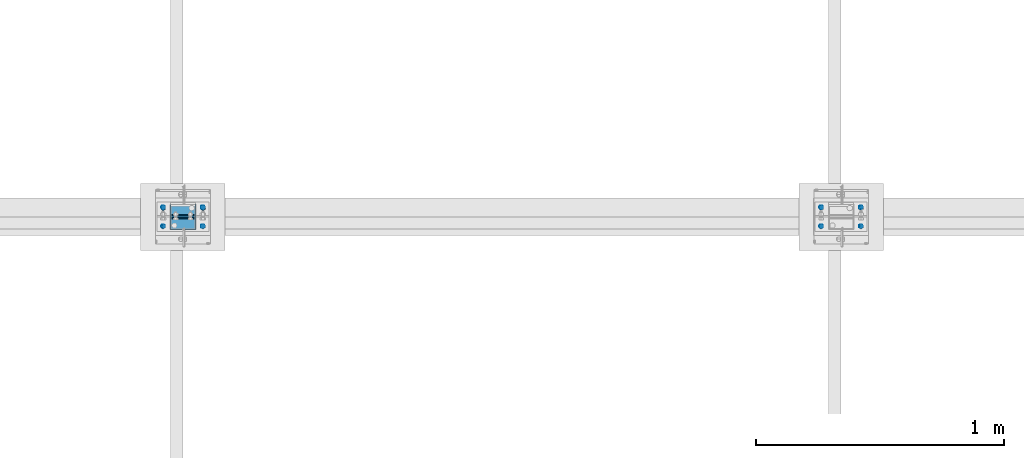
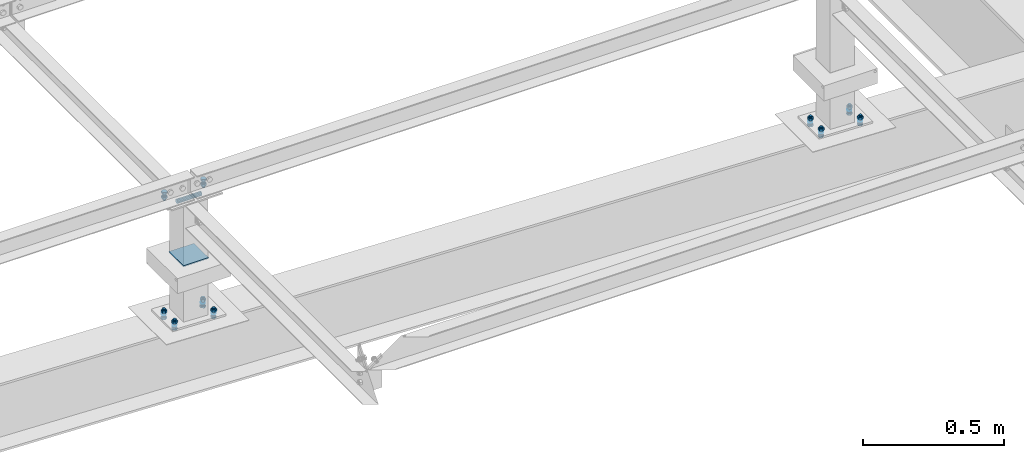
# One storey, part 77 of 3134: 7 mechanical fasteners, 5 elements without a shape of their own.
"""IFC2X3 building model written with IfcOpenShell, lengths in millimetres."""

from ifc_helpers import new_model, si_unit, frame, origin_with_axes, place, context, subcontext, project, spatial, faceted_brep, source, transform, mapped, material, type_object, element, aggregate, save


model = new_model("IFC2X3")

# Units and contexts
model_context = context("Model", 3, precision=1e-05, world=origin_with_axes())
body_context = subcontext(model_context, "Body", "Model", "MODEL_VIEW")
ifc_project = project(units=[si_unit("LENGTHUNIT", "METRE", prefix="MILLI"), si_unit("AREAUNIT", "SQUARE_METRE"), si_unit("VOLUMEUNIT", "CUBIC_METRE"), si_unit("MASSUNIT", "GRAM", prefix="KILO"), si_unit("TIMEUNIT", "SECOND"), si_unit("PLANEANGLEUNIT", "RADIAN"), si_unit("SOLIDANGLEUNIT", "STERADIAN"), si_unit("THERMODYNAMICTEMPERATUREUNIT", "DEGREE_CELSIUS"), si_unit("LUMINOUSINTENSITYUNIT", "LUMEN")], contexts=[model_context])

# Site, building, storey
site_placement = place(None, origin_with_axes())
site = spatial("IfcSite", under=ifc_project, at=site_placement, CompositionType="ELEMENT")
building_placement = place(site_placement, origin_with_axes())
building = spatial("IfcBuilding", under=site, at=building_placement, Name="Undefined", CompositionType="ELEMENT")
storey_placement = place(building_placement, origin_with_axes())
storey = spatial("IfcBuildingStorey", under=building, at=storey_placement, Name="Undefined", CompositionType="ELEMENT", Elevation=0.0)

# Assembly, mechanical fastener
assembly_1_placement = place(storey_placement, origin_with_axes())
assembly_1 = element("IfcElementAssembly", 1, at=assembly_1_placement, inside=storey, AssemblyPlace="NOTDEFINED", PredefinedType="RIGID_FRAME")
ifc_material_1 = material(Name="8.8")
mechanical_fastener_type = type_object("IfcMechanicalFastenerType", Name="Bolt assembly")
shared_shape_1 = source(origin_with_axes(), body_context, "Body", "Brep", [
    faceted_brep([(10.9696551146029, -14.0, 0.0), (5.48482755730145, -14.0, 9.5), (-5.48482755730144, -14.0, 9.5), (-10.9696551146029, -14.0, 1.34339530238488e-15), (-5.48482755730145, -14.0, -9.5), (5.48482755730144, -14.0, -9.50000000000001), (5.48482755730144, -6.0, -9.50000000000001), (-5.48482755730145, -6.0, -9.5), (-10.9696551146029, -6.0, 1.34339530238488e-15), (-5.48482755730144, -6.0, 9.5), (5.48482755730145, -6.0, 9.5), (10.9696551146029, -6.0, 0.0), (6.0, -6.0, 0.0), (5.19615242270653, -6.0, 3.00000000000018), (2.99999999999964, -6.0, 5.19615242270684), (-6.21801588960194e-13, -6.0, 6.0), (-3.00000000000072, -6.0, 5.19615242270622), (-5.19615242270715, -6.0, 2.9999999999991), (-6.0, -6.0, -1.24360317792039e-12), (-5.19615242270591, -6.0, -3.00000000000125), (-2.99999999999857, -6.0, -5.19615242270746), (1.85874342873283e-12, -6.0, -6.0), (3.00000000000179, -6.0, -5.1961524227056), (5.19615242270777, -6.0, -2.99999999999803), (5.19615242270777, 24.0, -2.99999999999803), (3.00000000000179, 24.0, -5.1961524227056), (1.85874342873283e-12, 24.0, -6.0), (-2.99999999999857, 24.0, -5.19615242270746), (-5.19615242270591, 24.0, -3.00000000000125), (-6.0, 24.0, -1.24360317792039e-12), (-5.19615242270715, 24.0, 2.9999999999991), (-3.00000000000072, 24.0, 5.19615242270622), (-6.21801588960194e-13, 24.0, 6.0), (2.99999999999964, 24.0, 5.19615242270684), (5.19615242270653, 24.0, 3.00000000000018), (6.0, 24.0, 0.0), (10.9696551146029, 6.00000000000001, 0.0), (5.48482755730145, 6.00000000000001, 9.5), (-5.48482755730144, 6.00000000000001, 9.5), (-10.9696551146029, 6.00000000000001, 1.34339530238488e-15), (-5.48482755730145, 6.00000000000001, -9.5), (5.48482755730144, 6.00000000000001, -9.50000000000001), (5.48482755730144, 16.0, -9.50000000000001), (-5.48482755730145, 16.0, -9.5), (-10.9696551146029, 16.0, 1.34339530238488e-15), (-5.48482755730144, 16.0, 9.5), (5.48482755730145, 16.0, 9.5), (10.9696551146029, 16.0, 0.0)], [[[0, 1, 2, 3, 4, 5]], [[6, 7, 8, 9, 10, 11]], [[0, 11, 10, 1]], [[1, 10, 9, 2]], [[2, 9, 8, 3]], [[3, 8, 7, 4]], [[4, 7, 6, 5]], [[5, 6, 11, 0]], [[12, 13, 14, 15, 16, 17, 18, 19, 20, 21, 22, 23]], [[24, 25, 26, 27, 28, 29, 30, 31, 32, 33, 34, 35]], [[12, 35, 34, 13]], [[13, 34, 33, 14]], [[14, 33, 32, 15]], [[15, 32, 31, 16]], [[16, 31, 30, 17]], [[17, 30, 29, 18]], [[18, 29, 28, 19]], [[19, 28, 27, 20]], [[20, 27, 26, 21]], [[21, 26, 25, 22]], [[22, 25, 24, 23]], [[23, 24, 35, 12]], [[36, 37, 38, 39, 40, 41]], [[42, 43, 44, 45, 46, 47]], [[36, 47, 46, 37]], [[37, 46, 45, 38]], [[38, 45, 44, 39]], [[39, 44, 43, 40]], [[40, 43, 42, 41]], [[41, 42, 47, 36]]]),
    faceted_brep([(7.0, -0.1, 0.0), (6.06217782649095, -0.1, 3.50000000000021), (3.49999999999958, -0.1, 6.06217782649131), (-7.25435187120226e-13, -0.1, 7.0), (-3.50000000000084, -0.1, 6.06217782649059), (-6.06217782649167, -0.1, 3.49999999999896), (-7.0, -0.1, -1.45087037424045e-12), (-6.06217782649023, -0.1, -3.50000000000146), (-3.49999999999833, -0.1, -6.06217782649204), (2.1685340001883e-12, -0.1, -7.0), (3.50000000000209, -0.1, -6.06217782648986), (6.0621778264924, -0.1, -3.4999999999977), (6.0621778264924, 6.00000000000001, -3.4999999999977), (3.50000000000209, 6.00000000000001, -6.06217782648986), (2.1685340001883e-12, 6.00000000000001, -7.0), (-3.49999999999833, 6.00000000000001, -6.06217782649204), (-6.06217782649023, 6.00000000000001, -3.50000000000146), (-7.0, 6.00000000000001, -1.45087037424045e-12), (-6.06217782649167, 6.00000000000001, 3.49999999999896), (-3.50000000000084, 6.00000000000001, 6.06217782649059), (-7.25435187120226e-13, 6.00000000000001, 7.0), (3.49999999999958, 6.00000000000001, 6.06217782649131), (6.06217782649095, 6.00000000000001, 3.50000000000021), (7.0, 6.00000000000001, 0.0), (7.0, -5.9, 0.0), (6.06217782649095, -5.9, 3.50000000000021), (3.49999999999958, -5.9, 6.06217782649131), (-7.25435187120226e-13, -5.9, 7.0), (-3.50000000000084, -5.9, 6.06217782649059), (-6.06217782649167, -5.9, 3.49999999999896), (-7.0, -5.9, -1.45087037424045e-12), (-6.06217782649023, -5.9, -3.50000000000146), (-3.49999999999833, -5.9, -6.06217782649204), (2.1685340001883e-12, -5.9, -7.0), (3.50000000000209, -5.9, -6.06217782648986), (6.0621778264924, -5.9, -3.4999999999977), (6.0621778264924, 0.0999999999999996, -3.4999999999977), (3.50000000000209, 0.0999999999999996, -6.06217782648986), (2.1685340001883e-12, 0.0999999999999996, -7.0), (-3.49999999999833, 0.0999999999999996, -6.06217782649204), (-6.06217782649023, 0.0999999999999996, -3.50000000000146), (-7.0, 0.0999999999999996, -1.45087037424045e-12), (-6.06217782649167, 0.0999999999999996, 3.49999999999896), (-3.50000000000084, 0.0999999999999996, 6.06217782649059), (-7.25435187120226e-13, 0.0999999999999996, 7.0), (3.49999999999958, 0.0999999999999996, 6.06217782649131), (6.06217782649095, 0.0999999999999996, 3.50000000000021), (7.0, 0.0999999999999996, 0.0)], [[[0, 1, 2, 3, 4, 5, 6, 7, 8, 9, 10, 11]], [[12, 13, 14, 15, 16, 17, 18, 19, 20, 21, 22, 23]], [[0, 23, 22, 1]], [[1, 22, 21, 2]], [[2, 21, 20, 3]], [[3, 20, 19, 4]], [[4, 19, 18, 5]], [[5, 18, 17, 6]], [[6, 17, 16, 7]], [[7, 16, 15, 8]], [[8, 15, 14, 9]], [[9, 14, 13, 10]], [[10, 13, 12, 11]], [[11, 12, 23, 0]], [[24, 25, 26, 27, 28, 29, 30, 31, 32, 33, 34, 35]], [[36, 37, 38, 39, 40, 41, 42, 43, 44, 45, 46, 47]], [[24, 47, 46, 25]], [[25, 46, 45, 26]], [[26, 45, 44, 27]], [[27, 44, 43, 28]], [[28, 43, 42, 29]], [[29, 42, 41, 30]], [[30, 41, 40, 31]], [[31, 40, 39, 32]], [[32, 39, 38, 33]], [[33, 38, 37, 34]], [[34, 37, 36, 35]], [[35, 36, 47, 24]]]),
])
mechanical_fastener_1_placement = place(assembly_1_placement, frame((5691.67, 22016.25, 4365.0), z_axis=(1.0, 0.0, 0.0), x_axis=(0.0, -1.0, 0.0)))
mechanical_fastener_1 = element("IfcMechanicalFastener", 2, at=mechanical_fastener_1_placement, type_object=mechanical_fastener_type, material=ifc_material_1, Name="Bolt assembly", NominalDiameter=12.0, NominalLength=30.0, context=body_context, shape_type="MappedRepresentation", body=[
    mapped(shared_shape_1, transform((0.0, -5.32963895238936e-10, -79.9999999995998))),
    mapped(shared_shape_1, transform((0.0, 5.3114490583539e-10, 79.9999999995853))),
])
aggregate(assembly_1, [mechanical_fastener_1])

assembly_2_placement = place(storey_placement, origin_with_axes())
assembly_2 = element("IfcElementAssembly", 3, at=assembly_2_placement, inside=storey, AssemblyPlace="NOTDEFINED", PredefinedType="RIGID_FRAME")
shared_shape_2 = source(origin_with_axes(), body_context, "Body", "Brep", [
    faceted_brep([(10.9696551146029, -4.18280906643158, 0.0), (5.48482755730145, -4.18280906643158, 9.5), (-5.48482755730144, -4.18280906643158, 9.5), (-10.9696551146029, -4.18280906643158, 1.34339530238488e-15), (-5.48482755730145, -4.18280906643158, -9.5), (5.48482755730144, -4.18280906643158, -9.50000000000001), (5.48482755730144, 3.81719093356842, -9.50000000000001), (-5.48482755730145, 3.81719093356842, -9.5), (-10.9696551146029, 3.81719093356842, 1.34339530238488e-15), (-5.48482755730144, 3.81719093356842, 9.5), (5.48482755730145, 3.81719093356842, 9.5), (10.9696551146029, 3.81719093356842, 0.0), (6.0, 3.81719093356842, 0.0), (5.19615242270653, 3.81719093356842, 3.00000000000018), (2.99999999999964, 3.81719093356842, 5.19615242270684), (-6.21801588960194e-13, 3.81719093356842, 6.0), (-3.00000000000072, 3.81719093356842, 5.19615242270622), (-5.19615242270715, 3.81719093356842, 2.9999999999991), (-6.0, 3.81719093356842, -1.24360317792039e-12), (-5.19615242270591, 3.81719093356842, -3.00000000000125), (-2.99999999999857, 3.81719093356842, -5.19615242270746), (1.85874342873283e-12, 3.81719093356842, -6.0), (3.00000000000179, 3.81719093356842, -5.1961524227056), (5.19615242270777, 3.81719093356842, -2.99999999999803), (5.19615242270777, 38.8171909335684, -2.99999999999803), (3.00000000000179, 38.8171909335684, -5.1961524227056), (1.85874342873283e-12, 38.8171909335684, -6.0), (-2.99999999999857, 38.8171909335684, -5.19615242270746), (-5.19615242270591, 38.8171909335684, -3.00000000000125), (-6.0, 38.8171909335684, -1.24360317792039e-12), (-5.19615242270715, 38.8171909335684, 2.9999999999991), (-3.00000000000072, 38.8171909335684, 5.19615242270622), (-6.21801588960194e-13, 38.8171909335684, 6.0), (2.99999999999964, 38.8171909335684, 5.19615242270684), (5.19615242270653, 38.8171909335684, 3.00000000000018), (6.0, 38.8171909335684, 0.0), (10.9696551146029, 23.0139082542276, 0.0), (5.48482755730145, 23.0139082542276, 9.5), (-5.48482755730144, 23.0139082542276, 9.5), (-10.9696551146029, 23.0139082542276, 1.34339530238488e-15), (-5.48482755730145, 23.0139082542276, -9.5), (5.48482755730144, 23.0139082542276, -9.50000000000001), (5.48482755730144, 33.0139082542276, -9.50000000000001), (-5.48482755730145, 33.0139082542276, -9.5), (-10.9696551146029, 33.0139082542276, 1.34339530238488e-15), (-5.48482755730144, 33.0139082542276, 9.5), (5.48482755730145, 33.0139082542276, 9.5), (10.9696551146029, 33.0139082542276, 0.0)], [[[0, 1, 2, 3, 4, 5]], [[6, 7, 8, 9, 10, 11]], [[0, 11, 10, 1]], [[1, 10, 9, 2]], [[2, 9, 8, 3]], [[3, 8, 7, 4]], [[4, 7, 6, 5]], [[5, 6, 11, 0]], [[12, 13, 14, 15, 16, 17, 18, 19, 20, 21, 22, 23]], [[24, 25, 26, 27, 28, 29, 30, 31, 32, 33, 34, 35]], [[12, 35, 34, 13]], [[13, 34, 33, 14]], [[14, 33, 32, 15]], [[15, 32, 31, 16]], [[16, 31, 30, 17]], [[17, 30, 29, 18]], [[18, 29, 28, 19]], [[19, 28, 27, 20]], [[20, 27, 26, 21]], [[21, 26, 25, 22]], [[22, 25, 24, 23]], [[23, 24, 35, 12]], [[36, 37, 38, 39, 40, 41]], [[42, 43, 44, 45, 46, 47]], [[36, 47, 46, 37]], [[37, 46, 45, 38]], [[38, 45, 44, 39]], [[39, 44, 43, 40]], [[40, 43, 42, 41]], [[41, 42, 47, 36]]]),
    faceted_brep([(7.0, 3.91719093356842, 0.0), (6.06217782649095, 3.91719093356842, 3.50000000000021), (3.49999999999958, 3.91719093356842, 6.06217782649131), (-7.25435187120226e-13, 3.91719093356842, 7.0), (-3.50000000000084, 3.91719093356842, 6.06217782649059), (-6.06217782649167, 3.91719093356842, 3.49999999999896), (-7.0, 3.91719093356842, -1.45087037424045e-12), (-6.06217782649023, 3.91719093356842, -3.50000000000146), (-3.49999999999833, 3.91719093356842, -6.06217782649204), (2.1685340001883e-12, 3.91719093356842, -7.0), (3.50000000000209, 3.91719093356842, -6.06217782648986), (6.0621778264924, 3.91719093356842, -3.4999999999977), (6.0621778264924, 13.1171907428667, -3.4999999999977), (3.50000000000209, 13.1171907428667, -6.06217782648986), (2.1685340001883e-12, 13.1171907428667, -7.0), (-3.49999999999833, 13.1171907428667, -6.06217782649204), (-6.06217782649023, 13.1171907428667, -3.50000000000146), (-7.0, 13.1171907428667, -1.45087037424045e-12), (-6.06217782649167, 13.1171907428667, 3.49999999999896), (-3.50000000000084, 13.1171907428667, 6.06217782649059), (-7.25435187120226e-13, 13.1171907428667, 7.0), (3.49999999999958, 13.1171907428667, 6.06217782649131), (6.06217782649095, 13.1171907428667, 3.50000000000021), (7.0, 13.1171907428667, 0.0), (7.0, 14.9139082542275, 0.0), (6.06217782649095, 14.9139082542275, 3.50000000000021), (3.49999999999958, 14.9139082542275, 6.06217782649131), (-7.25435187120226e-13, 14.9139082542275, 7.0), (-3.50000000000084, 14.9139082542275, 6.06217782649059), (-6.06217782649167, 14.9139082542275, 3.49999999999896), (-7.0, 14.9139082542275, -1.45087037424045e-12), (-6.06217782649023, 14.9139082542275, -3.50000000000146), (-3.49999999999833, 14.9139082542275, -6.06217782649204), (2.1685340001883e-12, 14.9139082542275, -7.0), (3.50000000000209, 14.9139082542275, -6.06217782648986), (6.0621778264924, 14.9139082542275, -3.4999999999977), (6.0621778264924, 23.0139082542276, -3.4999999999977), (3.50000000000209, 23.0139082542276, -6.06217782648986), (2.1685340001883e-12, 23.0139082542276, -7.0), (-3.49999999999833, 23.0139082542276, -6.06217782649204), (-6.06217782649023, 23.0139082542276, -3.50000000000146), (-7.0, 23.0139082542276, -1.45087037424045e-12), (-6.06217782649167, 23.0139082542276, 3.49999999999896), (-3.50000000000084, 23.0139082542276, 6.06217782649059), (-7.25435187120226e-13, 23.0139082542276, 7.0), (3.49999999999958, 23.0139082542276, 6.06217782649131), (6.06217782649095, 23.0139082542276, 3.50000000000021), (7.0, 23.0139082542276, 0.0)], [[[0, 1, 2, 3, 4, 5, 6, 7, 8, 9, 10, 11]], [[12, 13, 14, 15, 16, 17, 18, 19, 20, 21, 22, 23]], [[0, 23, 22, 1]], [[1, 22, 21, 2]], [[2, 21, 20, 3]], [[3, 20, 19, 4]], [[4, 19, 18, 5]], [[5, 18, 17, 6]], [[6, 17, 16, 7]], [[7, 16, 15, 8]], [[8, 15, 14, 9]], [[9, 14, 13, 10]], [[10, 13, 12, 11]], [[11, 12, 23, 0]], [[24, 25, 26, 27, 28, 29, 30, 31, 32, 33, 34, 35]], [[36, 37, 38, 39, 40, 41, 42, 43, 44, 45, 46, 47]], [[24, 47, 46, 25]], [[25, 46, 45, 26]], [[26, 45, 44, 27]], [[27, 44, 43, 28]], [[28, 43, 42, 29]], [[29, 42, 41, 30]], [[30, 41, 40, 31]], [[31, 40, 39, 32]], [[32, 39, 38, 33]], [[33, 38, 37, 34]], [[34, 37, 36, 35]], [[35, 36, 47, 24]]]),
])
mechanical_fastener_2_placement = place(assembly_2_placement, frame((5690.86474073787, 22019.2499999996, 3827.79222028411), z_axis=(-0.999387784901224, 0.0, 0.0349865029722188), x_axis=(0.0, -1.0, 0.0)))
mechanical_fastener_2 = element("IfcMechanicalFastener", 4, at=mechanical_fastener_2_placement, type_object=mechanical_fastener_type, material=ifc_material_1, Name="Bolt assembly", NominalDiameter=12.0, NominalLength=35.0, context=body_context, shape_type="MappedRepresentation", body=[
    mapped(shared_shape_2, transform((0.0, -5.32963895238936e-10, -79.9999999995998))),
    mapped(shared_shape_2, transform((76.0, -5.32963895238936e-10, -79.9999999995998))),
    mapped(shared_shape_2, transform((0.0, 5.3114490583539e-10, 79.9999999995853))),
    mapped(shared_shape_2, transform((76.0, 5.3114490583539e-10, 79.9999999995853))),
])

assembly_3_placement = place(storey_placement, origin_with_axes())
assembly_3 = element("IfcElementAssembly", 5, at=assembly_3_placement, inside=storey, AssemblyPlace="NOTDEFINED", PredefinedType="RIGID_FRAME")
shared_shape_3 = source(origin_with_axes(), body_context, "Body", "Brep", [
    faceted_brep([(10.9696551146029, -4.18346828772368, 0.0), (5.48482755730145, -4.18346828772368, 9.5), (-5.48482755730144, -4.18346828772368, 9.5), (-10.9696551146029, -4.18346828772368, 1.34339530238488e-15), (-5.48482755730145, -4.18346828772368, -9.5), (5.48482755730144, -4.18346828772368, -9.50000000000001), (5.48482755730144, 3.81653171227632, -9.50000000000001), (-5.48482755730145, 3.81653171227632, -9.5), (-10.9696551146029, 3.81653171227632, 1.34339530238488e-15), (-5.48482755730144, 3.81653171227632, 9.5), (5.48482755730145, 3.81653171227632, 9.5), (10.9696551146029, 3.81653171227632, 0.0), (6.0, 3.81653171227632, 0.0), (5.19615242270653, 3.81653171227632, 3.00000000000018), (2.99999999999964, 3.81653171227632, 5.19615242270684), (-6.21801588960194e-13, 3.81653171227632, 6.0), (-3.00000000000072, 3.81653171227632, 5.19615242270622), (-5.19615242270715, 3.81653171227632, 2.9999999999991), (-6.0, 3.81653171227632, -1.24360317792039e-12), (-5.19615242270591, 3.81653171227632, -3.00000000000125), (-2.99999999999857, 3.81653171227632, -5.19615242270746), (1.85874342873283e-12, 3.81653171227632, -6.0), (3.00000000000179, 3.81653171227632, -5.1961524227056), (5.19615242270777, 3.81653171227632, -2.99999999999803), (5.19615242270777, 38.8165317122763, -2.99999999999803), (3.00000000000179, 38.8165317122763, -5.1961524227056), (1.85874342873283e-12, 38.8165317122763, -6.0), (-2.99999999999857, 38.8165317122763, -5.19615242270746), (-5.19615242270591, 38.8165317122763, -3.00000000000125), (-6.0, 38.8165317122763, -1.24360317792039e-12), (-5.19615242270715, 38.8165317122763, 2.9999999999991), (-3.00000000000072, 38.8165317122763, 5.19615242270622), (-6.21801588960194e-13, 38.8165317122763, 6.0), (2.99999999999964, 38.8165317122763, 5.19615242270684), (5.19615242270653, 38.8165317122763, 3.00000000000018), (6.0, 38.8165317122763, 0.0), (10.9696551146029, 23.0139082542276, 0.0), (5.48482755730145, 23.0139082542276, 9.5), (-5.48482755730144, 23.0139082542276, 9.5), (-10.9696551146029, 23.0139082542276, 1.34339530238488e-15), (-5.48482755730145, 23.0139082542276, -9.5), (5.48482755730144, 23.0139082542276, -9.50000000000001), (5.48482755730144, 33.0139082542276, -9.50000000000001), (-5.48482755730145, 33.0139082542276, -9.5), (-10.9696551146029, 33.0139082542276, 1.34339530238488e-15), (-5.48482755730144, 33.0139082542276, 9.5), (5.48482755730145, 33.0139082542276, 9.5), (10.9696551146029, 33.0139082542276, 0.0)], [[[0, 1, 2, 3, 4, 5]], [[6, 7, 8, 9, 10, 11]], [[0, 11, 10, 1]], [[1, 10, 9, 2]], [[2, 9, 8, 3]], [[3, 8, 7, 4]], [[4, 7, 6, 5]], [[5, 6, 11, 0]], [[12, 13, 14, 15, 16, 17, 18, 19, 20, 21, 22, 23]], [[24, 25, 26, 27, 28, 29, 30, 31, 32, 33, 34, 35]], [[12, 35, 34, 13]], [[13, 34, 33, 14]], [[14, 33, 32, 15]], [[15, 32, 31, 16]], [[16, 31, 30, 17]], [[17, 30, 29, 18]], [[18, 29, 28, 19]], [[19, 28, 27, 20]], [[20, 27, 26, 21]], [[21, 26, 25, 22]], [[22, 25, 24, 23]], [[23, 24, 35, 12]], [[36, 37, 38, 39, 40, 41]], [[42, 43, 44, 45, 46, 47]], [[36, 47, 46, 37]], [[37, 46, 45, 38]], [[38, 45, 44, 39]], [[39, 44, 43, 40]], [[40, 43, 42, 41]], [[41, 42, 47, 36]]]),
    faceted_brep([(7.0, 3.91653171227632, 0.0), (6.06217782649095, 3.91653171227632, 3.50000000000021), (3.49999999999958, 3.91653171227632, 6.06217782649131), (-7.25435187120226e-13, 3.91653171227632, 7.0), (-3.50000000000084, 3.91653171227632, 6.06217782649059), (-6.06217782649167, 3.91653171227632, 3.49999999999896), (-7.0, 3.91653171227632, -1.45087037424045e-12), (-6.06217782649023, 3.91653171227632, -3.50000000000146), (-3.49999999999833, 3.91653171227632, -6.06217782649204), (2.1685340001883e-12, 3.91653171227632, -7.0), (3.50000000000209, 3.91653171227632, -6.06217782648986), (6.0621778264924, 3.91653171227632, -3.4999999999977), (6.0621778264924, 13.1165315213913, -3.4999999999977), (3.50000000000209, 13.1165315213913, -6.06217782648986), (2.1685340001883e-12, 13.1165315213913, -7.0), (-3.49999999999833, 13.1165315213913, -6.06217782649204), (-6.06217782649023, 13.1165315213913, -3.50000000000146), (-7.0, 13.1165315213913, -1.45087037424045e-12), (-6.06217782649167, 13.1165315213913, 3.49999999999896), (-3.50000000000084, 13.1165315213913, 6.06217782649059), (-7.25435187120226e-13, 13.1165315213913, 7.0), (3.49999999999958, 13.1165315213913, 6.06217782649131), (6.06217782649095, 13.1165315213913, 3.50000000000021), (7.0, 13.1165315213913, 0.0), (7.0, 14.9139082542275, 0.0), (6.06217782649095, 14.9139082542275, 3.50000000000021), (3.49999999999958, 14.9139082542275, 6.06217782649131), (-7.25435187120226e-13, 14.9139082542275, 7.0), (-3.50000000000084, 14.9139082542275, 6.06217782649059), (-6.06217782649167, 14.9139082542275, 3.49999999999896), (-7.0, 14.9139082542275, -1.45087037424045e-12), (-6.06217782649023, 14.9139082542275, -3.50000000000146), (-3.49999999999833, 14.9139082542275, -6.06217782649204), (2.1685340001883e-12, 14.9139082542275, -7.0), (3.50000000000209, 14.9139082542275, -6.06217782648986), (6.0621778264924, 14.9139082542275, -3.4999999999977), (6.0621778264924, 23.0139082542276, -3.4999999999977), (3.50000000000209, 23.0139082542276, -6.06217782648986), (2.1685340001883e-12, 23.0139082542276, -7.0), (-3.49999999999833, 23.0139082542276, -6.06217782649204), (-6.06217782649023, 23.0139082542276, -3.50000000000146), (-7.0, 23.0139082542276, -1.45087037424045e-12), (-6.06217782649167, 23.0139082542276, 3.49999999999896), (-3.50000000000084, 23.0139082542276, 6.06217782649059), (-7.25435187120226e-13, 23.0139082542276, 7.0), (3.49999999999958, 23.0139082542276, 6.06217782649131), (6.06217782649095, 23.0139082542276, 3.50000000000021), (7.0, 23.0139082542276, 0.0)], [[[0, 1, 2, 3, 4, 5, 6, 7, 8, 9, 10, 11]], [[12, 13, 14, 15, 16, 17, 18, 19, 20, 21, 22, 23]], [[0, 23, 22, 1]], [[1, 22, 21, 2]], [[2, 21, 20, 3]], [[3, 20, 19, 4]], [[4, 19, 18, 5]], [[5, 18, 17, 6]], [[6, 17, 16, 7]], [[7, 16, 15, 8]], [[8, 15, 14, 9]], [[9, 14, 13, 10]], [[10, 13, 12, 11]], [[11, 12, 23, 0]], [[24, 25, 26, 27, 28, 29, 30, 31, 32, 33, 34, 35]], [[36, 37, 38, 39, 40, 41, 42, 43, 44, 45, 46, 47]], [[24, 47, 46, 25]], [[25, 46, 45, 26]], [[26, 45, 44, 27]], [[27, 44, 43, 28]], [[28, 43, 42, 29]], [[29, 42, 41, 30]], [[30, 41, 40, 31]], [[31, 40, 39, 32]], [[32, 39, 38, 33]], [[33, 38, 37, 34]], [[34, 37, 36, 35]], [[35, 36, 47, 24]]]),
])
mechanical_fastener_3_placement = place(assembly_3_placement, frame((8339.1931765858, 22019.2499999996, 3735.10000668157), z_axis=(-0.999387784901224, 0.0, 0.0349865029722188), x_axis=(0.0, -1.0, 0.0)))
mechanical_fastener_3 = element("IfcMechanicalFastener", 6, at=mechanical_fastener_3_placement, type_object=mechanical_fastener_type, material=ifc_material_1, Name="Bolt assembly", NominalDiameter=12.0, NominalLength=35.0, context=body_context, shape_type="MappedRepresentation", body=[
    mapped(shared_shape_3, transform((0.0, -5.32963895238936e-10, -79.9999999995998))),
    mapped(shared_shape_3, transform((76.0, -5.32963895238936e-10, -79.9999999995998))),
    mapped(shared_shape_3, transform((0.0, 5.3114490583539e-10, 79.9999999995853))),
    mapped(shared_shape_3, transform((76.0, 5.3114490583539e-10, 79.9999999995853))),
])
aggregate(assembly_3, [mechanical_fastener_3])

assembly_4_placement = place(storey_placement, origin_with_axes())
assembly_4 = element("IfcElementAssembly", 7, at=assembly_4_placement, inside=storey, AssemblyPlace="NOTDEFINED", PredefinedType="RIGID_FRAME")
shared_shape_4 = source(origin_with_axes(), body_context, "Body", "Brep", [
    faceted_brep([(7.0, 13.0000253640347, 0.0), (6.06217782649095, 13.0000253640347, 3.50000000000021), (3.49999999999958, 13.0000253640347, 6.06217782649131), (-7.25435187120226e-13, 13.0000253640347, 7.0), (-3.50000000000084, 13.0000253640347, 6.06217782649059), (-6.06217782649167, 13.0000253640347, 3.49999999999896), (-7.0, 13.0000253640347, -1.45087037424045e-12), (-6.06217782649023, 13.0000253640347, -3.50000000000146), (-3.49999999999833, 13.0000253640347, -6.06217782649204), (2.1685340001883e-12, 13.0000253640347, -7.0), (3.50000000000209, 13.0000253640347, -6.06217782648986), (6.0621778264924, 13.0000253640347, -3.4999999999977), (6.0621778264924, 15.0999999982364, -3.4999999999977), (3.50000000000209, 15.0999999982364, -6.06217782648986), (2.1685340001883e-12, 15.0999999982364, -7.0), (-3.49999999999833, 15.0999999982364, -6.06217782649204), (-6.06217782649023, 15.0999999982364, -3.50000000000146), (-7.0, 15.0999999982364, -1.45087037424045e-12), (-6.06217782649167, 15.0999999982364, 3.49999999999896), (-3.50000000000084, 15.0999999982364, 6.06217782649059), (-7.25435187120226e-13, 15.0999999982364, 7.0), (3.49999999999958, 15.0999999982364, 6.06217782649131), (6.06217782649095, 15.0999999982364, 3.50000000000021), (7.0, 15.0999999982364, 0.0)], [[[0, 1, 2, 3, 4, 5, 6, 7, 8, 9, 10, 11]], [[12, 13, 14, 15, 16, 17, 18, 19, 20, 21, 22, 23]], [[0, 23, 22, 1]], [[1, 22, 21, 2]], [[2, 21, 20, 3]], [[3, 20, 19, 4]], [[4, 19, 18, 5]], [[5, 18, 17, 6]], [[6, 17, 16, 7]], [[7, 16, 15, 8]], [[8, 15, 14, 9]], [[9, 14, 13, 10]], [[10, 13, 12, 11]], [[11, 12, 23, 0]]]),
])
mechanical_fastener_4_placement = place(assembly_4_placement, frame((8339.1931765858, 22019.2499999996, 3735.10000668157), z_axis=(-0.999387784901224, 0.0, 0.0349865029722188), x_axis=(0.0, -1.0, 0.0)))
mechanical_fastener_4 = element("IfcMechanicalFastener", 8, at=mechanical_fastener_4_placement, type_object=mechanical_fastener_type, material=ifc_material_1, Name="Bolt assembly", NominalDiameter=12.0, NominalLength=2.0, context=body_context, shape_type="MappedRepresentation", body=[
    mapped(shared_shape_4, transform((0.0, -5.32963895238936e-10, -79.9999999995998))),
    mapped(shared_shape_4, transform((76.0, -5.32963895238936e-10, -79.9999999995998))),
    mapped(shared_shape_4, transform((0.0, 5.3114490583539e-10, 79.9999999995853))),
    mapped(shared_shape_4, transform((76.0, 5.3114490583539e-10, 79.9999999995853))),
])
aggregate(assembly_4, [mechanical_fastener_4])

assembly_5_placement = place(storey_placement, origin_with_axes())
assembly_5 = element("IfcElementAssembly", 9, at=assembly_5_placement, inside=storey, AssemblyPlace="NOTDEFINED", PredefinedType="RIGID_FRAME")
mechanical_fastener_5_placement = place(assembly_5_placement, frame((5690.86474073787, 22019.2499999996, 3827.79222028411), z_axis=(-0.999387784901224, 0.0, 0.0349865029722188), x_axis=(0.0, -1.0, 0.0)))
mechanical_fastener_5 = element("IfcMechanicalFastener", 10, at=mechanical_fastener_5_placement, type_object=mechanical_fastener_type, material=ifc_material_1, Name="Bolt assembly", NominalDiameter=12.0, NominalLength=2.0, context=body_context, shape_type="MappedRepresentation", body=[
    mapped(shared_shape_4, transform((0.0, -5.32963895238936e-10, -79.9999999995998))),
    mapped(shared_shape_4, transform((76.0, -5.32963895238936e-10, -79.9999999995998))),
    mapped(shared_shape_4, transform((0.0, 5.3114490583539e-10, 79.9999999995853))),
    mapped(shared_shape_4, transform((76.0, 5.3114490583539e-10, 79.9999999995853))),
])
aggregate(assembly_5, [mechanical_fastener_5])

# Mechanical fastener
shared_shape_5 = source(origin_with_axes(), body_context, "Body", "Brep", [
    faceted_brep([(9.0, -50.0, 0.0), (7.79422863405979, -50.0, 4.50000000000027), (4.49999999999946, -50.0, 7.79422863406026), (-9.3270238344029e-13, -50.0, 9.0), (-4.50000000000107, -50.0, 7.79422863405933), (-7.79422863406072, -50.0, 4.49999999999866), (-9.0, -50.0, -1.86540476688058e-12), (-7.79422863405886, -50.0, -4.50000000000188), (-4.49999999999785, -50.0, -7.79422863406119), (2.78811514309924e-12, -50.0, -9.0), (4.50000000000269, -50.0, -7.7942286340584), (7.79422863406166, -50.0, -4.49999999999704), (7.79422863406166, 50.1, -4.49999999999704), (4.50000000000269, 50.1, -7.7942286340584), (2.78811514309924e-12, 50.1, -9.0), (-4.49999999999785, 50.1, -7.79422863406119), (-7.79422863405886, 50.1, -4.50000000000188), (-9.0, 50.1, -1.86540476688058e-12), (-7.79422863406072, 50.1, 4.49999999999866), (-4.50000000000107, 50.1, 7.79422863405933), (-9.3270238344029e-13, 50.1, 9.0), (4.49999999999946, 50.1, 7.79422863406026), (7.79422863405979, 50.1, 4.50000000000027), (9.0, 50.1, 0.0)], [[[0, 1, 2, 3, 4, 5, 6, 7, 8, 9, 10, 11]], [[12, 13, 14, 15, 16, 17, 18, 19, 20, 21, 22, 23]], [[0, 23, 22, 1]], [[1, 22, 21, 2]], [[2, 21, 20, 3]], [[3, 20, 19, 4]], [[4, 19, 18, 5]], [[5, 18, 17, 6]], [[6, 17, 16, 7]], [[7, 16, 15, 8]], [[8, 15, 14, 9]], [[9, 14, 13, 10]], [[10, 13, 12, 11]], [[11, 12, 23, 0]]]),
])
mechanical_fastener_6_placement = place(assembly_2_placement, frame((5691.67, 21981.25, 4345.0), z_axis=(0.0, 1.0, 0.0), x_axis=(0.0, 0.0, 1.0)))
mechanical_fastener_6 = element("IfcMechanicalFastener", 11, at=mechanical_fastener_6_placement, type_object=mechanical_fastener_type, material=ifc_material_1, Name="Bolt assembly", NominalDiameter=16.0, NominalLength=100.0, context=body_context, shape_type="MappedRepresentation", body=[
    mapped(shared_shape_5, transform((0.0, 0.0, 0.0))),
])

ifc_material_2 = material(Name="6.8")
shared_shape_6 = source(origin_with_axes(), body_context, "Body", "Brep", [
    faceted_brep([(51.5, 1.36424205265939e-12, 50.0), (51.3858192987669, 1.36424205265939e-12, 50.5740251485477), (51.0606601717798, 1.36424205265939e-12, 51.0606601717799), (50.5740251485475, 1.36424205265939e-12, 51.385819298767), (-50.0000000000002, 1.36424205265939e-12, 51.5), (-50.7500000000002, 1.36424205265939e-12, 51.2990381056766), (-51.2990381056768, 1.36424205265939e-12, 50.7499999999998), (-51.5, 1.36424205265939e-12, 49.9999999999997), (-51.5, 1.36424205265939e-12, -50.0000000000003), (-51.2990381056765, 1.36424205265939e-12, -50.7500000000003), (-50.7499999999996, 1.36424205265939e-12, -51.2990381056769), (-49.9999999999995, 1.36424205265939e-12, -51.5), (50.0000000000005, 1.36424205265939e-12, -51.5), (50.7500000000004, 1.36424205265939e-12, -51.2990381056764), (51.2990381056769, 1.36424205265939e-12, -50.7499999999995), (51.5, 1.36424205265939e-12, -49.9999999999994), (51.5, 5.10000000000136, -49.9999999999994), (51.2990381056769, 5.10000000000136, -50.7499999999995), (50.7500000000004, 5.10000000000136, -51.2990381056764), (50.0000000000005, 5.10000000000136, -51.5), (-49.9999999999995, 5.10000000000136, -51.5), (-50.7499999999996, 5.10000000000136, -51.2990381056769), (-51.2990381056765, 5.10000000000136, -50.7500000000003), (-51.5, 5.10000000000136, -50.0000000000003), (-51.5, 5.10000000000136, 49.9999999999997), (-51.2990381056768, 5.10000000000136, 50.7499999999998), (-50.7500000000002, 5.10000000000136, 51.2990381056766), (-50.0000000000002, 5.10000000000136, 51.5), (50.5740251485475, 5.10000000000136, 51.385819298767), (51.0606601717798, 5.10000000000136, 51.0606601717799), (51.3858192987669, 5.10000000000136, 50.5740251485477), (51.5, 5.10000000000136, 50.0)], [[[0, 1, 2, 3, 4, 5, 6, 7, 8, 9, 10, 11, 12, 13, 14, 15]], [[16, 17, 18, 19, 20, 21, 22, 23, 24, 25, 26, 27, 28, 29, 30, 31]], [[0, 31, 30, 1]], [[1, 30, 29, 2]], [[2, 29, 28, 3]], [[3, 28, 27, 4]], [[4, 27, 26, 5]], [[5, 26, 25, 6]], [[6, 25, 24, 7]], [[7, 24, 23, 8]], [[8, 23, 22, 9]], [[9, 22, 21, 10]], [[10, 21, 20, 11]], [[11, 20, 19, 12]], [[12, 19, 18, 13]], [[13, 18, 17, 14]], [[14, 17, 16, 15]], [[15, 16, 31, 0]]]),
])
mechanical_fastener_7_placement = place(assembly_2_placement, frame((5691.66156415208, 21981.25, 4097.5922136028), z_axis=(0.0, -1.0, 0.0), x_axis=(-1.0, 0.0, 0.0)))
mechanical_fastener_7 = element("IfcMechanicalFastener", 12, at=mechanical_fastener_7_placement, type_object=mechanical_fastener_type, material=ifc_material_2, Name="Bolt assembly", NominalDiameter=10.0, NominalLength=5.0, context=body_context, shape_type="MappedRepresentation", body=[
    mapped(shared_shape_6, transform((0.0, 0.0, 0.0))),
])

aggregate(assembly_2, [mechanical_fastener_2, mechanical_fastener_7, mechanical_fastener_6])

save(model, "model.ifc")
